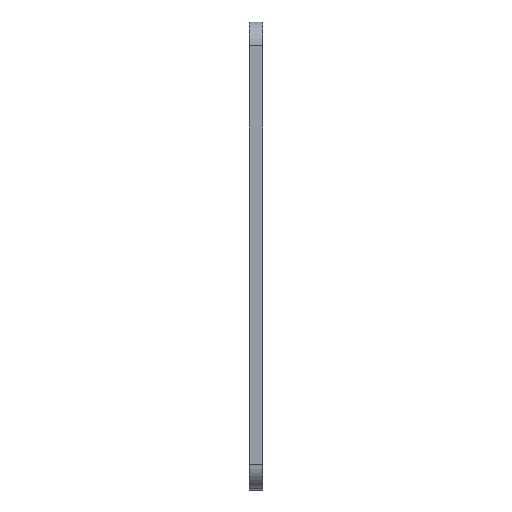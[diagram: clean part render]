
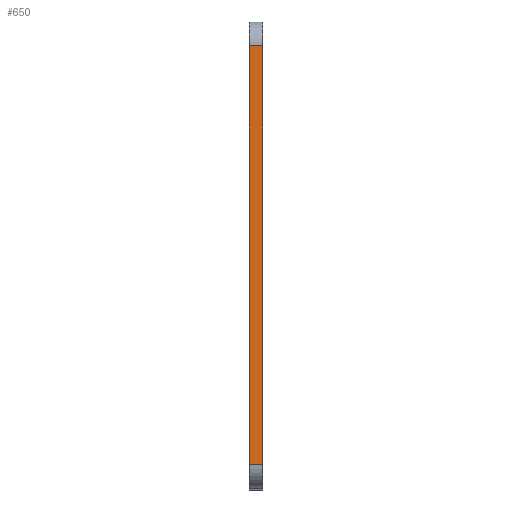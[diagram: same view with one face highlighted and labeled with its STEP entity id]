
A CAD part, top view. The second image highlights one B-rep face of the part: STEP entity #650.
In plain terms, the highlighted planar face has unit normal (0, 0, 1).
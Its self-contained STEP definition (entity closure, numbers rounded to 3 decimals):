
#34 = FACE_OUTER_BOUND ( 'NONE', #1153, .T. ) ;
#45 = EDGE_CURVE ( 'NONE', #771, #847, #1117, .T. ) ;
#134 = EDGE_CURVE ( 'NONE', #847, #863, #249, .T. ) ;
#155 = AXIS2_PLACEMENT_3D ( 'NONE', #408, #402, #404 ) ;
#192 = EDGE_CURVE ( 'NONE', #803, #863, #282, .T. ) ;
#193 = EDGE_CURVE ( 'NONE', #771, #803, #277, .T. ) ;
#245 = VECTOR ( 'NONE', #562, 1000. ) ;
#249 = LINE ( 'NONE', #425, #245 ) ;
#277 = LINE ( 'NONE', #403, #278 ) ;
#278 = VECTOR ( 'NONE', #399, 1000. ) ;
#280 = VECTOR ( 'NONE', #459, 1000. ) ;
#282 = LINE ( 'NONE', #344, #280 ) ;
#344 = CARTESIAN_POINT ( 'NONE',  ( 0., 35., 77.75 ) ) ;
#399 = DIRECTION ( 'NONE',  ( -1., 0., 0. ) ) ;
#401 = PLANE ( 'NONE',  #155 ) ;
#402 = DIRECTION ( 'NONE',  ( 0., 0., -1. ) ) ;
#403 = CARTESIAN_POINT ( 'NONE',  ( 2.25, 35., 77.75 ) ) ;
#404 = DIRECTION ( 'NONE',  ( 0., 1., 0. ) ) ;
#408 = CARTESIAN_POINT ( 'NONE',  ( 2.25, 35., 77.75 ) ) ;
#425 = CARTESIAN_POINT ( 'NONE',  ( 2.25, -35., 77.75 ) ) ;
#459 = DIRECTION ( 'NONE',  ( 0., -1., 0. ) ) ;
#562 = DIRECTION ( 'NONE',  ( -1., 0., 0. ) ) ;
#650 = ADVANCED_FACE ( 'NONE', ( #34 ), #401, .F. ) ;
#697 = CARTESIAN_POINT ( 'NONE',  ( 0., -35., 77.75 ) ) ;
#710 = CARTESIAN_POINT ( 'NONE',  ( 0., 35., 77.75 ) ) ;
#737 = CARTESIAN_POINT ( 'NONE',  ( 2.25, -35., 77.75 ) ) ;
#761 = CARTESIAN_POINT ( 'NONE',  ( 2.25, 35., 77.75 ) ) ;
#771 = VERTEX_POINT ( 'NONE', #761 ) ;
#803 = VERTEX_POINT ( 'NONE', #710 ) ;
#839 = CARTESIAN_POINT ( 'NONE',  ( 2.25, 35., 77.75 ) ) ;
#847 = VERTEX_POINT ( 'NONE', #737 ) ;
#863 = VERTEX_POINT ( 'NONE', #697 ) ;
#869 = DIRECTION ( 'NONE',  ( 0., -1., 0. ) ) ;
#909 = ORIENTED_EDGE ( 'NONE', *, *, #193, .T. ) ;
#913 = ORIENTED_EDGE ( 'NONE', *, *, #134, .F. ) ;
#914 = ORIENTED_EDGE ( 'NONE', *, *, #192, .T. ) ;
#918 = ORIENTED_EDGE ( 'NONE', *, *, #45, .F. ) ;
#1069 = VECTOR ( 'NONE', #869, 1000. ) ;
#1117 = LINE ( 'NONE', #839, #1069 ) ;
#1153 = EDGE_LOOP ( 'NONE', ( #914, #913, #918, #909 ) ) ;
